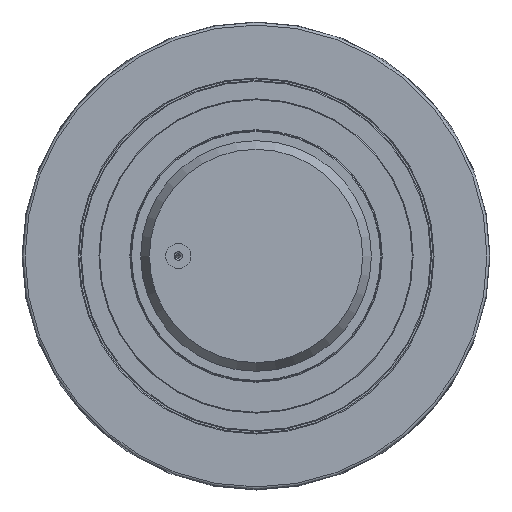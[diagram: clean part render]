
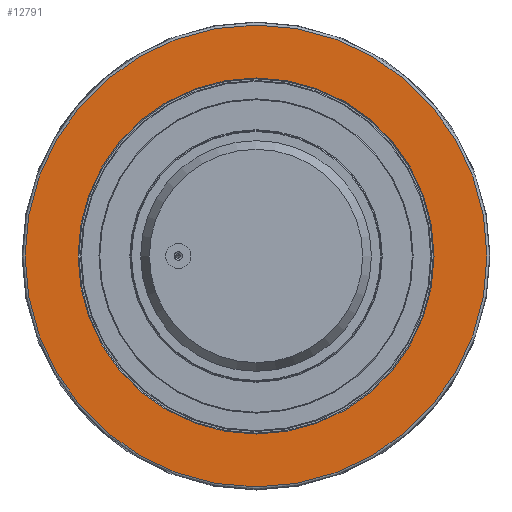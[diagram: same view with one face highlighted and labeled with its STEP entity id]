
A CAD part, left-side view. The second image highlights one B-rep face of the part: STEP entity #12791.
In plain terms, the highlighted planar face has unit normal (-1, 0, 0).
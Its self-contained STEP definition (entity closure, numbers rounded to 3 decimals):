
#57=FACE_BOUND('',#1293,.T.);
#84=PLANE('',#14743);
#628=FACE_OUTER_BOUND('',#1292,.T.);
#1292=EDGE_LOOP('',(#9771,#9772));
#1293=EDGE_LOOP('',(#9773));
#2956=CIRCLE('',#14561,138.148);
#2957=CIRCLE('',#14562,138.148);
#3136=CIRCLE('',#14744,106.5);
#5561=VERTEX_POINT('',#23823);
#5562=VERTEX_POINT('',#23825);
#5655=VERTEX_POINT('',#24103);
#7195=EDGE_CURVE('',#5561,#5562,#2956,.T.);
#7196=EDGE_CURVE('',#5562,#5561,#2957,.T.);
#7377=EDGE_CURVE('',#5655,#5655,#3136,.T.);
#9771=ORIENTED_EDGE('',*,*,#7196,.F.);
#9772=ORIENTED_EDGE('',*,*,#7195,.F.);
#9773=ORIENTED_EDGE('',*,*,#7377,.F.);
#12791=ADVANCED_FACE('',(#628,#57),#84,.T.);
#14561=AXIS2_PLACEMENT_3D('',#23826,#18422,#18423);
#14562=AXIS2_PLACEMENT_3D('',#23827,#18424,#18425);
#14743=AXIS2_PLACEMENT_3D('',#24102,#18788,#18789);
#14744=AXIS2_PLACEMENT_3D('',#24104,#18790,#18791);
#18422=DIRECTION('center_axis',(1.,0.,0.));
#18423=DIRECTION('ref_axis',(0.,0.,
-1.));
#18424=DIRECTION('center_axis',(1.,0.,0.));
#18425=DIRECTION('ref_axis',(0.,0.,
-1.));
#18788=DIRECTION('center_axis',(-1.,0.,0.));
#18789=DIRECTION('ref_axis',(0.,-1.,0.));
#18790=DIRECTION('center_axis',(-1.,0.,0.));
#18791=DIRECTION('ref_axis',(0.,0.,
-1.));
#23823=CARTESIAN_POINT('',(-77.894,-181.324,17.724));
#23825=CARTESIAN_POINT('',(-77.894,-43.176,155.872));
#23826=CARTESIAN_POINT('Origin',(-77.894,-43.176,17.724));
#23827=CARTESIAN_POINT('Origin',(-77.894,-43.176,17.724));
#24102=CARTESIAN_POINT('Origin',(-77.894,-43.176,140.531));
#24103=CARTESIAN_POINT('',(-77.894,-43.176,124.224));
#24104=CARTESIAN_POINT('Origin',(-77.894,-43.176,17.724));
